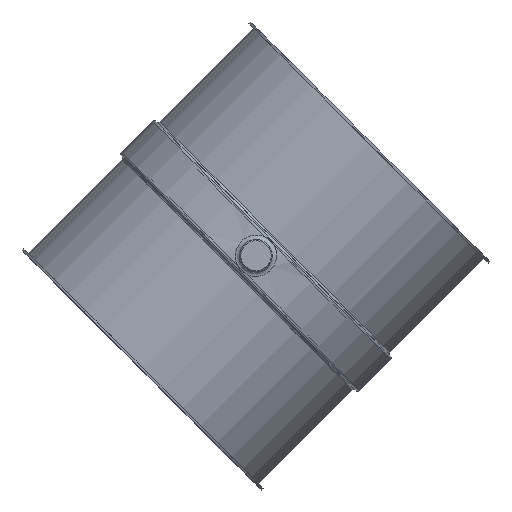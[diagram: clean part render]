
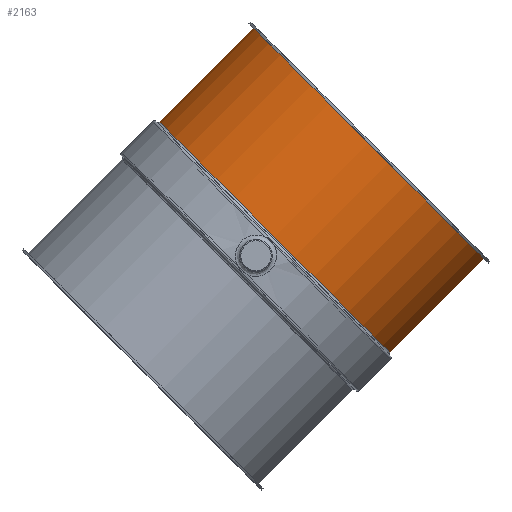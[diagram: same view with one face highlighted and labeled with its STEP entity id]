
A CAD part, top view. The second image highlights one B-rep face of the part: STEP entity #2163.
In plain terms, the highlighted cylindrical face has radius 151.5 mm (diameter 303 mm), a full revolution.
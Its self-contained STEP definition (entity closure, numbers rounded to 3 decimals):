
#1808=CARTESIAN_POINT('',(0.,298.041,0.));
#1809=VERTEX_POINT('',#1808);
#1810=CARTESIAN_POINT('',(-151.5,298.041,0.0));
#1811=DIRECTION('',(0.0,-1.0,0.0));
#1812=DIRECTION('',(1.0,0.0,0.0));
#1813=AXIS2_PLACEMENT_3D('',#1810,#1811,#1812);
#1814=CIRCLE('',#1813,151.5);
#1815=EDGE_CURVE('',#1809,#1809,#1814,.T.);
#1884=CARTESIAN_POINT('',(0.,174.541,0.0));
#1885=VERTEX_POINT('',#1884);
#1886=CARTESIAN_POINT('',(-151.5,174.541,0.0));
#1887=DIRECTION('',(0.0,-1.0,0.0));
#1888=DIRECTION('',(1.0,0.0,0.0));
#1889=AXIS2_PLACEMENT_3D('',#1886,#1887,#1888);
#1890=CIRCLE('',#1889,151.5);
#1891=EDGE_CURVE('',#1885,#1885,#1890,.T.);
#2152=CARTESIAN_POINT('',(-151.5,237.291,0.0));
#2153=DIRECTION('',(0.0,-1.0,0.0));
#2154=DIRECTION('',(1.0,0.0,0.0));
#2155=AXIS2_PLACEMENT_3D('',#2152,#2153,#2154);
#2156=CYLINDRICAL_SURFACE('',#2155,151.5);
#2157=ORIENTED_EDGE('',*,*,#1815,.T.);
#2158=EDGE_LOOP('',(#2157));
#2159=FACE_OUTER_BOUND('',#2158,.T.);
#2160=ORIENTED_EDGE('',*,*,#1891,.F.);
#2161=EDGE_LOOP('',(#2160));
#2162=FACE_BOUND('',#2161,.T.);
#2163=ADVANCED_FACE('',(#2159,#2162),#2156,.T.);
